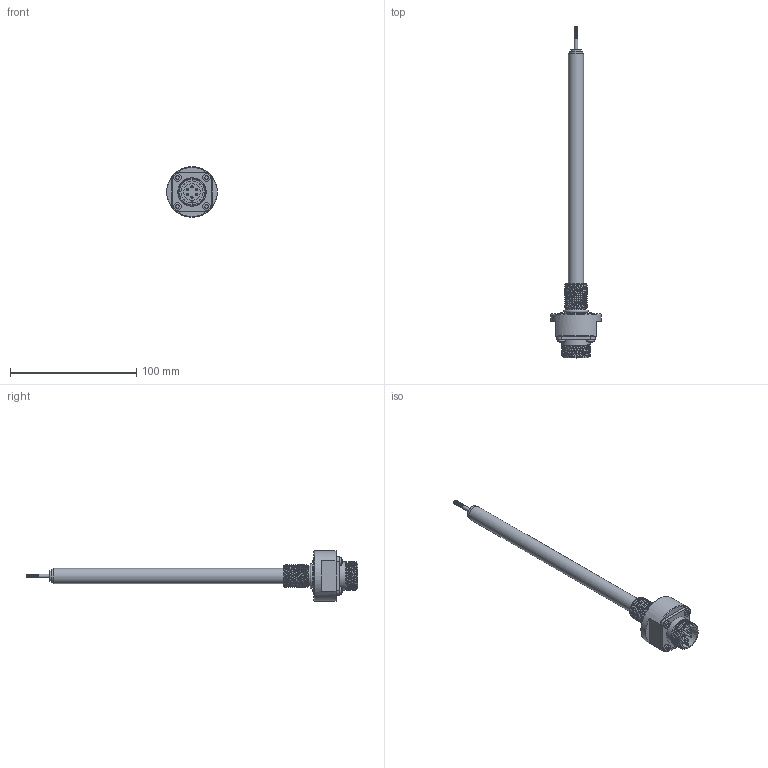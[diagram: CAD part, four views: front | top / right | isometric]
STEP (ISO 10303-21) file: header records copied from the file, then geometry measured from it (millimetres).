
FILE_DESCRIPTION( ( 'Unknown' ), '1' );
FILE_NAME( 'N:/Engineering/CAD/LVDT/HYD/Kunden-3D-Modell/SM50-HYD-18-S.stp', 'Unknown', ( 'Unknown' ), ( 'Unknown' ), 'PSStep 17.0.49', 'Unknown', ' ' );
FILE_SCHEMA( ( 'AUTOMOTIVE_DESIGN { 1 0 10303 214 1 1 1 1 }' ) );
Length unit declared in the file: millimetre
Products named in the file (9): Assem1; Endkappe; Innenrohr_SM5-HYD; Kernverlängerung_SM5-HYD; SM-HYD-Flansch_M18_vereinfacht; O-Ring_15,4x2,1; MIL-Stecker_2; DIN7985_M3-6_Torx; Aussenrohr_SM50-HYD_vereinfacht
Assembly tree (11 placements, depth 2):
  Assem1
    Endkappe
    Innenrohr_SM5-HYD
    Kernverlängerung_SM5-HYD
    SM-HYD-Flansch_M18_vereinfacht
    O-Ring_15,4x2,1
    MIL-Stecker_2
    DIN7985_M3-6_Torx  x4
    Aussenrohr_SM50-HYD_vereinfacht
Bounding box: 40 x 262.9 x 40 mm (x, y, z)
Volume: 52905.9 mm3; surface area: 25880.6 mm2
Topology: 11 solids, 11 shells, 255 faces, 589 edges, 385 vertices
Faces by surface type: plane 132, cylinder 82, cone 22, bspline 14, sphere 4, torus 1
Full cylindrical faces by diameter (mm): 1.4 x6, 1.6 x6, 2.013 x1, 2.4 x1, 2.5 x8, 3 x9, 4 x1, 6 x6, 8 x1, 10 x1, 11 x2, 12 x3, 13 x1, 15.8 x1, 17.6 x1, 18.8 x1, 20.2 x1, 22.3 x7, 24 x1, 40 x1
Entity records: 13563 total; most frequent: CARTESIAN_POINT 8176, DIRECTION 792, ORIENTED_EDGE 656, AXIS2_PLACEMENT_3D 336, EDGE_CURVE 328, EDGE_LOOP 289, VERTEX_POINT 255, FACE_OUTER_BOUND 236
